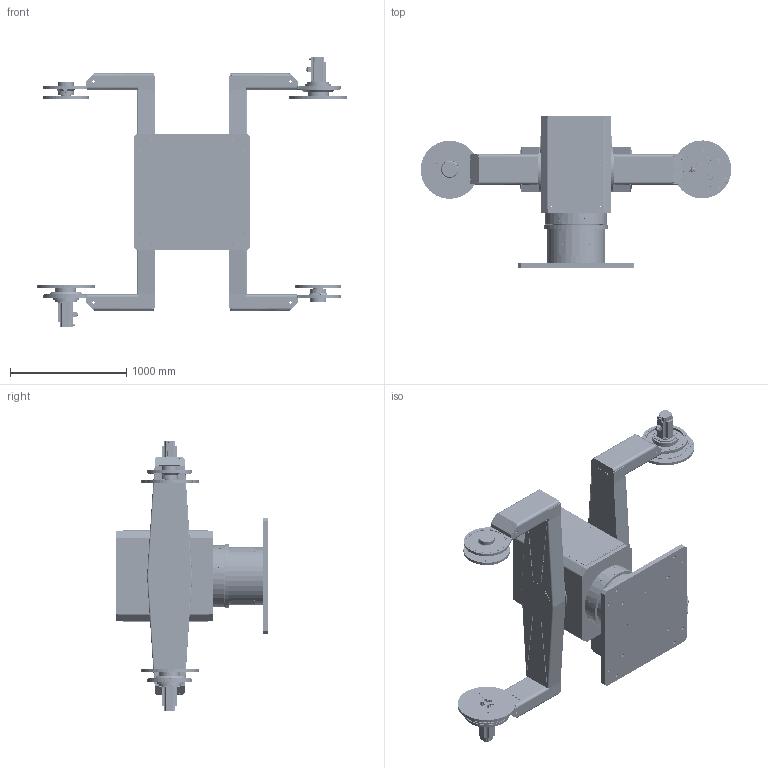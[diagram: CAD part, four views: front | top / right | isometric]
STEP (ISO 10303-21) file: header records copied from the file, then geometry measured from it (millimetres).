
FILE_DESCRIPTION (( 'STEP AP214' ), '1' );
FILE_NAME ('140682red.STEP', '2008-10-27T13:37:24', ( ' ' ), ( ' ' ), 'SwSTEP 2.0', 'SolidWorks 2008', '' );
FILE_SCHEMA (( 'AUTOMOTIVE_DESIGN' ));
Length unit declared in the file: millimetre
Products named in the file (6): 140682red; 141805red_Standard; 129727red_Standard; 141716red_Standard; 131645red_Standard; 126773red_Standard
Assembly tree (8 placements, depth 2):
  140682red
    141716red_Standard
    126773red_Standard  x2
    129727red_Standard
    131645red_Standard  x2
    141805red_Standard  x2
Bounding box: 2674.91 x 1314.5 x 2332 mm (x, y, z)
Volume: 85117906.6 mm3; surface area: 25260416.4 mm2
Topology: 88 solids, 131 shells, 5761 faces, 16538 edges, 10864 vertices
Faces by surface type: cylinder 3393, plane 1506, cone 660, torus 166, bspline 28, sphere 8
Entity records: 165038 total; most frequent: CARTESIAN_POINT 27631, DIRECTION 22066, ORIENTED_EDGE 18705, EDGE_CURVE 10662, AXIS2_PLACEMENT_3D 8529, VERTEX_POINT 7342, EDGE_LOOP 5023, VECTOR 5008
